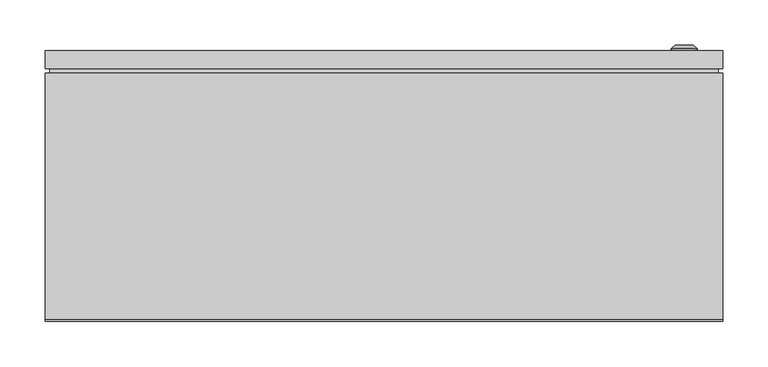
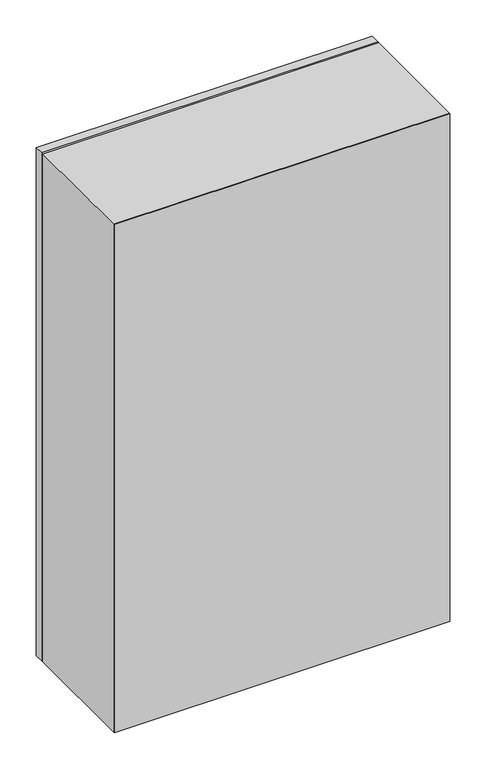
"""IFC4 building model written with IfcOpenShell, lengths in millimetres: proxy geometry, ЩМП_IP65 : ЩМП-6-0_1200х750х300."""

from ifc_helpers import new_model, si_unit, frame, origin, origin_with_axes, place, context, project, spatial, polyline, circle_curve, outline, extrude, source, transform, mapped, element, save
from ifc_brep_helpers import plane_surface, cylinder_surface, revolved_surface, advanced_brep


def electrical_equipment_ed40e2c7(model_context):
    return source(origin(), model_context, "Body", "SolidModel", [
        extrude(outline(polyline([(370.0, 275.0), (-370.0, 275.0), (-370.0, 280.0), (370.0, 280.0), (370.0, 275.0)])), frame((0.0, 0.0, 5.0), z_axis=(0.0, 0.0, 1.0), x_axis=(1.0, 0.0, 0.0)), (0.0, 0.0, 1.0), 1190.0),
        extrude(outline(polyline([(375.0, 280.0), (-375.0, 280.0), (-375.0, 300.0), (375.0, 300.0), (375.0, 280.0)])), origin_with_axes(), (0.0, 0.0, 1.0), 1200.0),
        advanced_brep(
        [(318.169873, 300.0, 600.0), (346.830127, 300.0, 600.0), (332.5, 300.0, 600.0), (318.169873, 302.366592, 600.0), (346.830127, 302.366592, 600.0), (322.5, 306.0, 600.0), (342.5, 306.0, 600.0), (330.6080471, 306.0, 600.0), (334.3919529, 306.0, 600.0), (330.6080471, 304.9822294, 600.0), (334.3919529, 304.9822294, 600.0), (332.5, 304.9822294, 600.0)],
        [
            (0, 1, circle_curve(frame((332.5, 300.0, 600.0), z_axis=(0.0, -1.0, 0.0), x_axis=(1.0, 0.0, 0.0)), 14.330127)),
            (1, 2),
            (2, 0),
            (1, 0, circle_curve(frame((332.5, 300.0, 600.0), z_axis=(0.0, -1.0, 0.0), x_axis=(1.0, 0.0, 0.0)), 14.330127)),
            (3, 4, circle_curve(frame((332.5, 302.366592, 600.0), z_axis=(0.0, -1.0, 0.0), x_axis=(1.0, 0.0, 0.0)), 14.330127)),
            (4, 1),
            (0, 3),
            (4, 3, circle_curve(frame((332.5, 302.366592, 600.0), z_axis=(0.0, -1.0, 0.0), x_axis=(1.0, 0.0, 0.0)), 14.330127)),
            (5, 6, circle_curve(frame((332.5, 306.0, 600.0), z_axis=(0.0, -1.0, 0.0), x_axis=(1.0, 0.0, 0.0)), 10.0)),
            (6, 4),
            (3, 5),
            (6, 5, circle_curve(frame((332.5, 306.0, 600.0), z_axis=(0.0, -1.0, 0.0), x_axis=(1.0, 0.0, 0.0)), 10.0)),
            (7, 8, circle_curve(frame((332.5, 306.0, 600.0), z_axis=(0.0, -1.0, 0.0), x_axis=(1.0, 0.0, 0.0)), 1.8919529)),
            (8, 6),
            (5, 7),
            (8, 7, circle_curve(frame((332.5, 306.0, 600.0), z_axis=(0.0, -1.0, 0.0), x_axis=(1.0, 0.0, 0.0)), 1.8919529)),
            (9, 10, circle_curve(frame((332.5, 304.9822294, 600.0), z_axis=(0.0, -1.0, 0.0), x_axis=(1.0, 0.0, 0.0)), 1.8919529)),
            (10, 8),
            (7, 9),
            (10, 9, circle_curve(frame((332.5, 304.9822294, 600.0), z_axis=(0.0, -1.0, 0.0), x_axis=(1.0, 0.0, 0.0)), 1.8919529)),
            (11, 10),
            (9, 11),
        ],
        [
            plane_surface(frame((332.5, 300.0, 600.0), z_axis=(0.0, -1.0, 0.0), x_axis=(1.0, 0.0, 0.0))),
            cylinder_surface(frame((332.5, 313.1348851, 600.0), z_axis=(0.0, 1.0, 0.0), x_axis=(1.0, 0.0, 0.0)), 14.330127),
            revolved_surface(polyline([(346.830127, 302.366592, 600.0), (342.5, 306.0, 600.0)]), (332.5, 313.1348851, 600.0), (0.0, 1.0, 0.0)),
            plane_surface(frame((332.5, 306.0, 600.0), z_axis=(0.0, 1.0, 0.0), x_axis=(1.0, 0.0, 0.0))),
            revolved_surface(polyline([(334.3919529, 306.0, 600.0), (334.3919529, 304.9822294, 600.0)]), (332.5, 313.1348851, 600.0), (0.0, 1.0, 0.0)),
            plane_surface(frame((332.5, 304.9822294, 600.0), z_axis=(0.0, 1.0, 0.0), x_axis=(1.0, 0.0, 0.0))),
        ],
        [
            (0, [[1, 2, 3]]),
            (0, [[4, -3, -2]]),
            (1, [[5, 6, -1, 7]]),
            (1, [[8, -7, -4, -6]]),
            (2, [[9, 10, -5, 11]]),
            (2, [[12, -11, -8, -10]]),
            (3, [[13, 14, -9, 15]]),
            (3, [[16, -15, -12, -14]]),
            (4, [[17, 18, -13, 19]]),
            (4, [[20, -19, -16, -18]]),
            (5, [[21, -17, 22]]),
            (5, [[-22, -20, -21]]),
        ],
    ),
        extrude(outline(polyline([(1200.0, -375.0033905), (0.0, -375.0033905), (0.0, 374.9966095), (1200.0, 374.9966095), (1200.0, -375.0033905)]), holes=[polyline([(1165.0, -342.5033905), (1165.0, 342.4966095), (35.0, 342.4966095), (35.0, -342.5033905), (1165.0, -342.5033905)])]), frame((0.0, 2.0, 0.0), z_axis=(0.0, 1.0, 0.0), x_axis=(0.0, 0.0, 1.0)), (0.0, 0.0, 1.0), 273.0),
        extrude(outline(polyline([(375.0, 0.0), (-375.0, 0.0), (-375.0, 2.0), (375.0, 2.0), (375.0, 0.0)])), origin_with_axes(), (0.0, 0.0, 1.0), 1200.0),
    ])


if __name__ == "__main__":
    model = new_model("IFC4")
    model_context = context("Model", 3, world=origin())
    ifc_project = project(units=[si_unit("LENGTHUNIT", "METRE", prefix="MILLI")], contexts=[model_context])
    site = spatial("IfcSite", under=ifc_project)
    building = spatial("IfcBuilding", under=site)
    placement = place(None, origin())
    electrical_equipment_shape = electrical_equipment_ed40e2c7(model_context)
    element("IfcBuildingElementProxy", 1, Name="ЩМП_IP65 : ЩМП-6-0_1200х750х300", ObjectType="ЩМП_IP65 : ЩМП-6-0_1200х750х300", at=placement, inside=building, context=model_context, shape_type="MappedRepresentation", body=[
        mapped(electrical_equipment_shape, transform((0.0, 0.0, 0.0), x_axis=(1.0, 0.0, 0.0), y_axis=(0.0, 1.0, 0.0), z_axis=(0.0, 0.0, 1.0))),
    ])
    save(model, "model.ifc")
